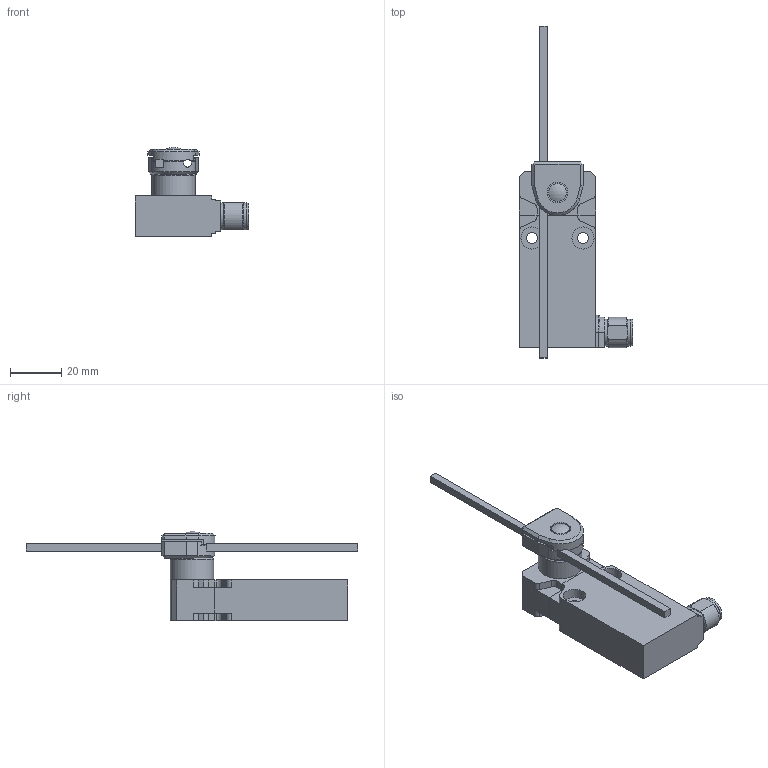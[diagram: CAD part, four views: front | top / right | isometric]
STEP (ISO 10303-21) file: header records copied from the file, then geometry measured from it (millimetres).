
FILE_DESCRIPTION(/* description */ (''),/* implementation_level */ '2;1');
FILE_NAME(/* name */ 'C:\Users\servizio.tecnico\Desktop\CADENAS\3D\EP1_STP\STP_EP1_GG75M.stp',/* time_stamp */ '2017-09-04T11:56:05+02:00',/* author */ ('servizio.tecnico'),/* organization */ (''),/* preprocessor_version */ 'ST-DEVELOPER v16.1',/* originating_system */ 'Autodesk Inventor 2016',/* authorisation */ '');
FILE_SCHEMA (('AUTOMOTIVE_DESIGN { 1 0 10303 214 3 1 1 }'));
Length unit declared in the file: millimetre
Products named in the file (3): Product; EP1G75-M; BASE ASSI 
Assembly tree (2 placements, depth 3):
  BASE ASSI 
    EP1G75-M
      Product
Bounding box: 44.5 x 130 x 35.03 mm (x, y, z)
Volume: 38106.7 mm3; surface area: 13922.9 mm2
Topology: 4 solids, 4 shells, 187 faces, 477 edges, 310 vertices
Faces by surface type: plane 131, cylinder 47, cone 6, torus 2, sphere 1
Full cylindrical faces by diameter (mm): 4.4 x2, 7 x1, 8 x1, 8.7 x4, 10.3 x1, 10.6 x2, 11 x1, 17 x1
Entity records: 5687 total; most frequent: CARTESIAN_POINT 1007, DIRECTION 944, ORIENTED_EDGE 922, EDGE_CURVE 461, LINE 342, VECTOR 342, VERTEX_POINT 308, AXIS2_PLACEMENT_3D 301
